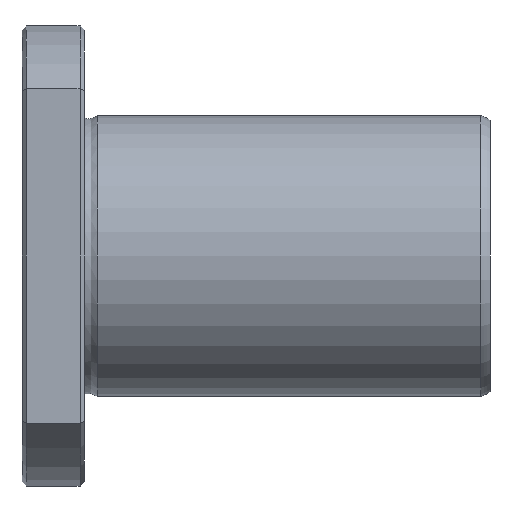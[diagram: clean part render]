
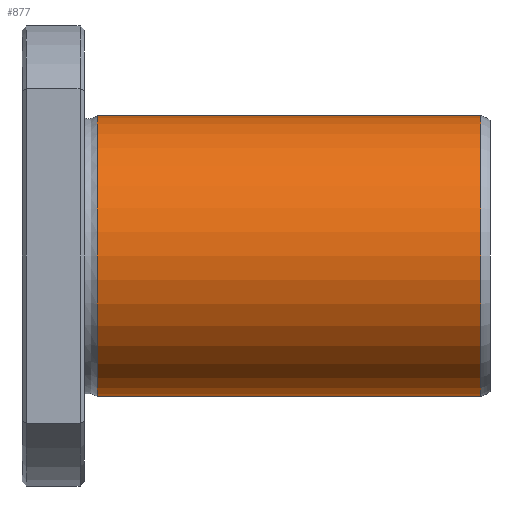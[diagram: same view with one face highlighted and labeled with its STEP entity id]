
A CAD part, front view. The second image highlights one B-rep face of the part: STEP entity #877.
In plain terms, the highlighted cylindrical face has radius 22.5 mm (diameter 45 mm), a full revolution.
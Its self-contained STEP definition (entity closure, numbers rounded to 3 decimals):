
#843=CARTESIAN_POINT('',(73.502,0.0,22.5));
#844=VERTEX_POINT('',#843);
#845=CARTESIAN_POINT('',(73.502,0.0,0.0));
#846=DIRECTION('',(-1.0,0.0,0.0));
#847=DIRECTION('',(0.0,0.0,1.0));
#848=AXIS2_PLACEMENT_3D('',#845,#846,#847);
#849=CIRCLE('',#848,22.5);
#850=EDGE_CURVE('',#844,#844,#849,.T.);
#858=CARTESIAN_POINT('',(42.762,0.0,0.0));
#859=DIRECTION('',(-1.0,0.0,0.0));
#860=DIRECTION('',(0.0,0.0,1.0));
#861=AXIS2_PLACEMENT_3D('',#858,#859,#860);
#862=CYLINDRICAL_SURFACE('',#861,22.5);
#863=CARTESIAN_POINT('',(12.023,0.0,22.5));
#864=VERTEX_POINT('',#863);
#865=CARTESIAN_POINT('',(12.023,0.0,0.0));
#866=DIRECTION('',(-1.0,0.0,0.0));
#867=DIRECTION('',(0.0,0.0,1.0));
#868=AXIS2_PLACEMENT_3D('',#865,#866,#867);
#869=CIRCLE('',#868,22.5);
#870=EDGE_CURVE('',#864,#864,#869,.T.);
#871=ORIENTED_EDGE('',*,*,#870,.F.);
#872=EDGE_LOOP('',(#871));
#873=FACE_OUTER_BOUND('',#872,.T.);
#874=ORIENTED_EDGE('',*,*,#850,.T.);
#875=EDGE_LOOP('',(#874));
#876=FACE_BOUND('',#875,.T.);
#877=ADVANCED_FACE('',(#873,#876),#862,.T.);
